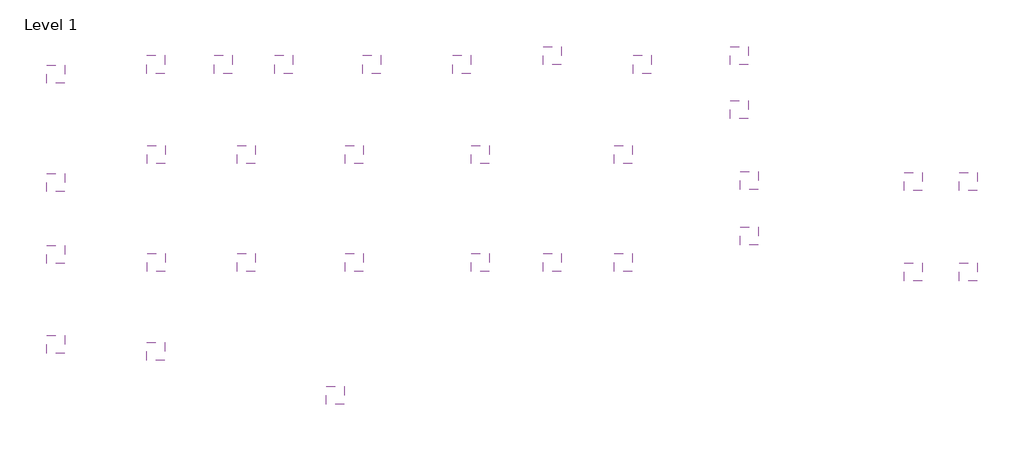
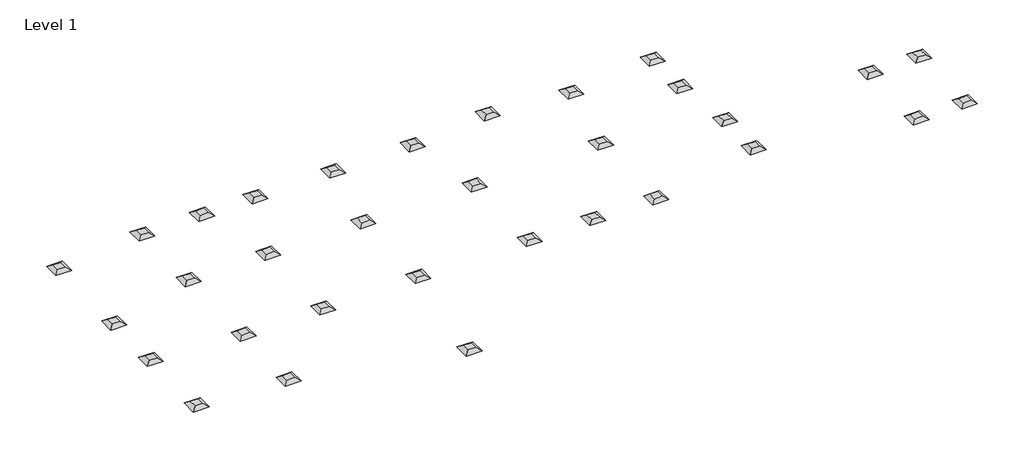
# One storey: 32 air terminals.
"""IFC4 building model written with IfcOpenShell, lengths in millimetres."""

from ifc_helpers import new_model, si_unit, origin, place, context, project, spatial, transform, mapped, element, save
from components import return_diffuser_hosted_workplane_based_return_diffuser_7695a80a

model = new_model("IFC4")

# Units and contexts
model_context = context("Model", 3, world=origin())
ifc_project = project(units=[si_unit("LENGTHUNIT", "METRE", prefix="MILLI")], contexts=[model_context])

# Site, building, storey
site = spatial("IfcSite", under=ifc_project)
building = spatial("IfcBuilding", under=site)
storey = spatial("IfcBuildingStorey", under=building, Name="Level 1", Elevation=0.0)

# Air terminals
placement = place(None, origin())
return_diffuser_hosted_workplane_based_return_diffuser_shape = return_diffuser_hosted_workplane_based_return_diffuser_7695a80a(model_context)
element("IfcAirTerminal", 1, ObjectType="Return Diffuser - Hosted : Workplane-based Return Diffuser", at=placement, inside=storey, context=model_context, shape_type="MappedRepresentation", body=[
    mapped(return_diffuser_hosted_workplane_based_return_diffuser_shape, transform((-21916.7339359, 10483.8984503, 2514.6), x_axis=(0.0, -1.0, 0.0), y_axis=(-1.0, 0.0, 0.0), z_axis=(0.0, 0.0, -1.0))),
])
element("IfcAirTerminal", 2, ObjectType="Return Diffuser - Hosted : Workplane-based Return Diffuser", at=placement, inside=storey, context=model_context, shape_type="MappedRepresentation", body=[
    mapped(return_diffuser_hosted_workplane_based_return_diffuser_shape, transform((-21916.7339359, 769.7410539, 2514.6), x_axis=(0.0, -1.0, 0.0), y_axis=(-1.0, 0.0, 0.0), z_axis=(0.0, 0.0, -1.0))),
])
element("IfcAirTerminal", 3, ObjectType="Return Diffuser - Hosted : Workplane-based Return Diffuser", at=placement, inside=storey, context=model_context, shape_type="MappedRepresentation", body=[
    mapped(return_diffuser_hosted_workplane_based_return_diffuser_shape, transform((5588.5753749, 6510.6674075, 2514.6), x_axis=(0.0, -1.0, 0.0), y_axis=(-1.0, 0.0, 0.0), z_axis=(0.0, 0.0, -1.0))),
])
element("IfcAirTerminal", 4, ObjectType="Return Diffuser - Hosted : Workplane-based Return Diffuser", at=placement, inside=storey, context=model_context, shape_type="MappedRepresentation", body=[
    mapped(return_diffuser_hosted_workplane_based_return_diffuser_shape, transform((-19630.7339359, 10483.8984503, 2514.6), x_axis=(0.0, -1.0, 0.0), y_axis=(-1.0, 0.0, 0.0), z_axis=(0.0, 0.0, -1.0))),
])
element("IfcAirTerminal", 5, ObjectType="Return Diffuser - Hosted : Workplane-based Return Diffuser", at=placement, inside=storey, context=model_context, shape_type="MappedRepresentation", body=[
    mapped(return_diffuser_hosted_workplane_based_return_diffuser_shape, transform((-8496.7251397, 3775.2315553, 2514.6), x_axis=(-1.0, 0.0, 0.0), y_axis=(0.0, 1.0, 0.0), z_axis=(0.0, 0.0, -1.0))),
])
element("IfcAirTerminal", 6, ObjectType="Supply Diffuser - Hosted : Workplane-based Supply Diffuser", at=placement, inside=storey, context=model_context, shape_type="MappedRepresentation", body=[
    mapped(return_diffuser_hosted_workplane_based_return_diffuser_shape, transform((-25309.6859678, 10145.7709948, 2514.6), x_axis=(-1.0, 0.0, 0.0), y_axis=(0.0, 1.0, 0.0), z_axis=(0.0, 0.0, -1.0))),
])
element("IfcAirTerminal", 7, ObjectType="Supply Diffuser - Hosted : Workplane-based Supply Diffuser", at=placement, inside=storey, context=model_context, shape_type="MappedRepresentation", body=[
    mapped(return_diffuser_hosted_workplane_based_return_diffuser_shape, transform((-25309.6859678, 6488.1709948, 2514.6), x_axis=(-1.0, 0.0, 0.0), y_axis=(0.0, 1.0, 0.0), z_axis=(0.0, 0.0, -1.0))),
])
element("IfcAirTerminal", 8, ObjectType="Supply Diffuser - Hosted : Workplane-based Supply Diffuser", at=placement, inside=storey, context=model_context, shape_type="MappedRepresentation", body=[
    mapped(return_diffuser_hosted_workplane_based_return_diffuser_shape, transform((-25309.6859678, 4049.7709948, 2514.6), x_axis=(-1.0, 0.0, 0.0), y_axis=(0.0, 1.0, 0.0), z_axis=(0.0, 0.0, -1.0))),
])
element("IfcAirTerminal", 9, ObjectType="Supply Diffuser - Hosted : Workplane-based Supply Diffuser", at=placement, inside=storey, context=model_context, shape_type="MappedRepresentation", body=[
    mapped(return_diffuser_hosted_workplane_based_return_diffuser_shape, transform((-25309.6859678, 1001.7709948, 2514.6), x_axis=(-1.0, 0.0, 0.0), y_axis=(0.0, 1.0, 0.0), z_axis=(0.0, 0.0, -1.0))),
])
element("IfcAirTerminal", 10, ObjectType="Supply Diffuser - Hosted : Workplane-based Supply Diffuser", at=placement, inside=storey, context=model_context, shape_type="MappedRepresentation", body=[
    mapped(return_diffuser_hosted_workplane_based_return_diffuser_shape, transform((-18859.9251397, 7432.8315553, 2514.6), x_axis=(-1.0, 0.0, 0.0), y_axis=(0.0, 1.0, 0.0), z_axis=(0.0, 0.0, -1.0))),
])
element("IfcAirTerminal", 11, ObjectType="Supply Diffuser - Hosted : Workplane-based Supply Diffuser", at=placement, inside=storey, context=model_context, shape_type="MappedRepresentation", body=[
    mapped(return_diffuser_hosted_workplane_based_return_diffuser_shape, transform((-15202.3251397, 7432.8315553, 2514.6), x_axis=(-1.0, 0.0, 0.0), y_axis=(0.0, 1.0, 0.0), z_axis=(0.0, 0.0, -1.0))),
])
element("IfcAirTerminal", 12, ObjectType="Supply Diffuser - Hosted : Workplane-based Supply Diffuser", at=placement, inside=storey, context=model_context, shape_type="MappedRepresentation", body=[
    mapped(return_diffuser_hosted_workplane_based_return_diffuser_shape, transform((-10935.1251397, 7432.8315553, 2514.6), x_axis=(-1.0, 0.0, 0.0), y_axis=(0.0, 1.0, 0.0), z_axis=(0.0, 0.0, -1.0))),
])
element("IfcAirTerminal", 13, ObjectType="Supply Diffuser - Hosted : Workplane-based Supply Diffuser", at=placement, inside=storey, context=model_context, shape_type="MappedRepresentation", body=[
    mapped(return_diffuser_hosted_workplane_based_return_diffuser_shape, transform((-6087.0836003, 7432.8315553, 2514.6), x_axis=(-1.0, 0.0, 0.0), y_axis=(0.0, 1.0, 0.0), z_axis=(0.0, 0.0, -1.0))),
])
element("IfcAirTerminal", 14, ObjectType="Supply Diffuser - Hosted : Workplane-based Supply Diffuser", at=placement, inside=storey, context=model_context, shape_type="MappedRepresentation", body=[
    mapped(return_diffuser_hosted_workplane_based_return_diffuser_shape, transform((-18859.9251397, 3775.2315553, 2514.6), x_axis=(-1.0, 0.0, 0.0), y_axis=(0.0, 1.0, 0.0), z_axis=(0.0, 0.0, -1.0))),
])
element("IfcAirTerminal", 15, ObjectType="Supply Diffuser - Hosted : Workplane-based Supply Diffuser", at=placement, inside=storey, context=model_context, shape_type="MappedRepresentation", body=[
    mapped(return_diffuser_hosted_workplane_based_return_diffuser_shape, transform((-15202.3251397, 3775.2315553, 2514.6), x_axis=(-1.0, 0.0, 0.0), y_axis=(0.0, 1.0, 0.0), z_axis=(0.0, 0.0, -1.0))),
])
element("IfcAirTerminal", 16, ObjectType="Supply Diffuser - Hosted : Workplane-based Supply Diffuser", at=placement, inside=storey, context=model_context, shape_type="MappedRepresentation", body=[
    mapped(return_diffuser_hosted_workplane_based_return_diffuser_shape, transform((-10935.1251397, 3775.2315553, 2514.6), x_axis=(-1.0, 0.0, 0.0), y_axis=(0.0, 1.0, 0.0), z_axis=(0.0, 0.0, -1.0))),
])
element("IfcAirTerminal", 17, ObjectType="Supply Diffuser - Hosted : Workplane-based Supply Diffuser", at=placement, inside=storey, context=model_context, shape_type="MappedRepresentation", body=[
    mapped(return_diffuser_hosted_workplane_based_return_diffuser_shape, transform((-6087.0836003, 3775.2315553, 2514.6), x_axis=(-1.0, 0.0, 0.0), y_axis=(0.0, 1.0, 0.0), z_axis=(0.0, 0.0, -1.0))),
])
element("IfcAirTerminal", 18, ObjectType="Supply Diffuser - Hosted : Workplane-based Supply Diffuser", at=placement, inside=storey, context=model_context, shape_type="MappedRepresentation", body=[
    mapped(return_diffuser_hosted_workplane_based_return_diffuser_shape, transform((-21907.9251397, 7432.8315553, 2514.6), x_axis=(-1.0, 0.0, 0.0), y_axis=(0.0, 1.0, 0.0), z_axis=(0.0, 0.0, -1.0))),
])
element("IfcAirTerminal", 19, ObjectType="Supply Diffuser - Hosted : Workplane-based Supply Diffuser", at=placement, inside=storey, context=model_context, shape_type="MappedRepresentation", body=[
    mapped(return_diffuser_hosted_workplane_based_return_diffuser_shape, transform((-21907.9251397, 3775.2315553, 2514.6), x_axis=(-1.0, 0.0, 0.0), y_axis=(0.0, 1.0, 0.0), z_axis=(0.0, 0.0, -1.0))),
])
element("IfcAirTerminal", 20, ObjectType="Supply Diffuser - Hosted : Workplane-based Supply Diffuser", at=placement, inside=storey, context=model_context, shape_type="MappedRepresentation", body=[
    mapped(return_diffuser_hosted_workplane_based_return_diffuser_shape, transform((-8496.7251397, 10786.7852219, 2514.6), x_axis=(0.0, -1.0, 0.0), y_axis=(-1.0, 0.0, 0.0), z_axis=(0.0, 0.0, -1.0))),
])
element("IfcAirTerminal", 21, ObjectType="Supply Diffuser - Hosted : Workplane-based Supply Diffuser", at=placement, inside=storey, context=model_context, shape_type="MappedRepresentation", body=[
    mapped(return_diffuser_hosted_workplane_based_return_diffuser_shape, transform((-5459.2525169, 10483.8984503, 2514.6), x_axis=(0.0, -1.0, 0.0), y_axis=(-1.0, 0.0, 0.0), z_axis=(0.0, 0.0, -1.0))),
])
element("IfcAirTerminal", 22, ObjectType="Supply Diffuser - Hosted : Workplane-based Supply Diffuser", at=placement, inside=storey, context=model_context, shape_type="MappedRepresentation", body=[
    mapped(return_diffuser_hosted_workplane_based_return_diffuser_shape, transform((-15840.2163074, -721.0697729, 2514.6), x_axis=(-1.0, 0.0, 0.0), y_axis=(0.0, 1.0, 0.0), z_axis=(0.0, 0.0, -1.0))),
])
element("IfcAirTerminal", 23, ObjectType="Supply Diffuser - Hosted : Workplane-based Supply Diffuser", at=placement, inside=storey, context=model_context, shape_type="MappedRepresentation", body=[
    mapped(return_diffuser_hosted_workplane_based_return_diffuser_shape, transform((-2169.6824517, 10786.7852219, 2514.6), x_axis=(0.0, -1.0, 0.0), y_axis=(-1.0, 0.0, 0.0), z_axis=(0.0, 0.0, -1.0))),
])
element("IfcAirTerminal", 24, ObjectType="Supply Diffuser - Hosted : Workplane-based Supply Diffuser", at=placement, inside=storey, context=model_context, shape_type="MappedRepresentation", body=[
    mapped(return_diffuser_hosted_workplane_based_return_diffuser_shape, transform((-2169.6824517, 8957.9852219, 2514.6), x_axis=(0.0, -1.0, 0.0), y_axis=(-1.0, 0.0, 0.0), z_axis=(0.0, 0.0, -1.0))),
])
element("IfcAirTerminal", 25, ObjectType="Supply Diffuser - Hosted : Workplane-based Supply Diffuser", at=placement, inside=storey, context=model_context, shape_type="MappedRepresentation", body=[
    mapped(return_diffuser_hosted_workplane_based_return_diffuser_shape, transform((-1831.3915429, 6549.6522814, 2514.6), x_axis=(-1.0, 0.0, 0.0), y_axis=(0.0, 1.0, 0.0), z_axis=(0.0, 0.0, -1.0))),
])
element("IfcAirTerminal", 26, ObjectType="Supply Diffuser - Hosted : Workplane-based Supply Diffuser", at=placement, inside=storey, context=model_context, shape_type="MappedRepresentation", body=[
    mapped(return_diffuser_hosted_workplane_based_return_diffuser_shape, transform((-1831.3915429, 4667.5318675, 2514.6), x_axis=(-1.0, 0.0, 0.0), y_axis=(0.0, 1.0, 0.0), z_axis=(0.0, 0.0, -1.0))),
])
element("IfcAirTerminal", 27, ObjectType="Supply Diffuser - Hosted : Workplane-based Supply Diffuser", at=placement, inside=storey, context=model_context, shape_type="MappedRepresentation", body=[
    mapped(return_diffuser_hosted_workplane_based_return_diffuser_shape, transform((3722.2049459, 6509.0041218, 2514.6), x_axis=(-1.0, 0.0, 0.0), y_axis=(0.0, 1.0, 0.0), z_axis=(0.0, 0.0, -1.0))),
])
element("IfcAirTerminal", 28, ObjectType="Supply Diffuser - Hosted : Workplane-based Supply Diffuser", at=placement, inside=storey, context=model_context, shape_type="MappedRepresentation", body=[
    mapped(return_diffuser_hosted_workplane_based_return_diffuser_shape, transform((3722.2049459, 3455.2867041, 2514.6), x_axis=(-1.0, 0.0, 0.0), y_axis=(0.0, 1.0, 0.0), z_axis=(0.0, 0.0, -1.0))),
])
element("IfcAirTerminal", 29, ObjectType="Supply Diffuser - Hosted : Workplane-based Supply Diffuser", at=placement, inside=storey, context=model_context, shape_type="MappedRepresentation", body=[
    mapped(return_diffuser_hosted_workplane_based_return_diffuser_shape, transform((5576.4253448, 3455.2867041, 2514.6), x_axis=(-1.0, 0.0, 0.0), y_axis=(0.0, 1.0, 0.0), z_axis=(0.0, 0.0, -1.0))),
])
element("IfcAirTerminal", 30, ObjectType="Supply Diffuser - Hosted : Workplane-based Supply Diffuser", at=placement, inside=storey, context=model_context, shape_type="MappedRepresentation", body=[
    mapped(return_diffuser_hosted_workplane_based_return_diffuser_shape, transform((-17582.7136447, 10483.8984503, 2514.6), x_axis=(0.0, -1.0, 0.0), y_axis=(-1.0, 0.0, 0.0), z_axis=(0.0, 0.0, -1.0))),
])
element("IfcAirTerminal", 31, ObjectType="Supply Diffuser - Hosted : Workplane-based Supply Diffuser", at=placement, inside=storey, context=model_context, shape_type="MappedRepresentation", body=[
    mapped(return_diffuser_hosted_workplane_based_return_diffuser_shape, transform((-14603.2525169, 10483.8984503, 2514.6), x_axis=(0.0, -1.0, 0.0), y_axis=(-1.0, 0.0, 0.0), z_axis=(0.0, 0.0, -1.0))),
])
element("IfcAirTerminal", 32, ObjectType="Supply Diffuser - Hosted : Workplane-based Supply Diffuser", at=placement, inside=storey, context=model_context, shape_type="MappedRepresentation", body=[
    mapped(return_diffuser_hosted_workplane_based_return_diffuser_shape, transform((-11555.2525169, 10483.8984503, 2514.6), x_axis=(0.0, -1.0, 0.0), y_axis=(-1.0, 0.0, 0.0), z_axis=(0.0, 0.0, -1.0))),
])

save(model, "model.ifc")
